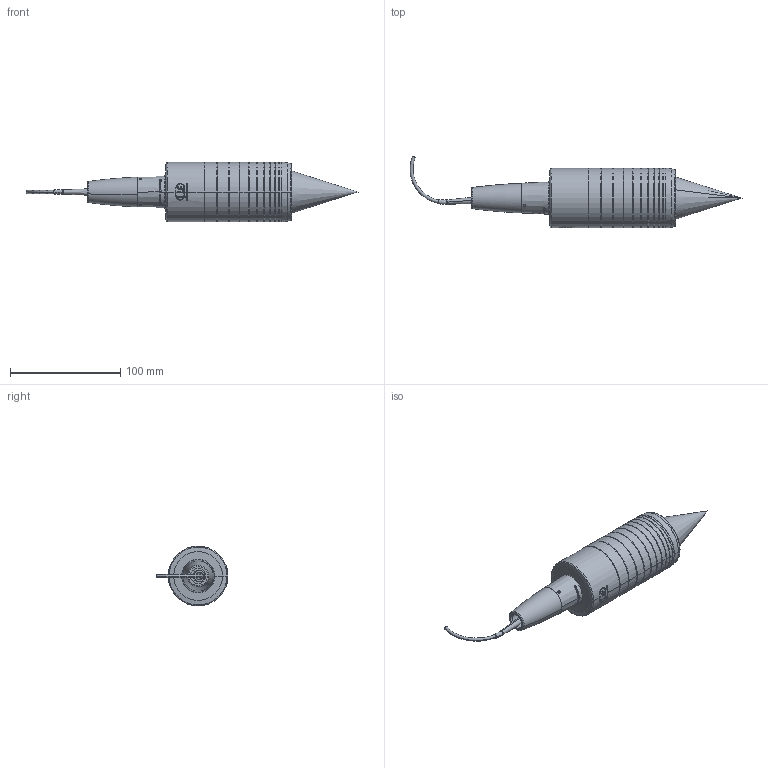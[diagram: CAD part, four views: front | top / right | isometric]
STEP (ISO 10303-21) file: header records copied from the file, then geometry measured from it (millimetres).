
FILE_DESCRIPTION (( 'STEP AP214' ), '1' );
FILE_NAME ('2602022 IFS2405-10 Sensor, vereinfacht.STEP', '2013-01-24T16:07:25', ( 'MICRO-EPSILON Optronic GmbH' ), ( 'MICRO-EPSILON Optronic GmbH' ), 'SwSTEP 2.0', 'SolidWorks 2012', '' );
FILE_SCHEMA (( 'AUTOMOTIVE_DESIGN' ));
Length unit declared in the file: millimetre
Products named in the file (1): 2602022 IFS2405-10 Sensor, vereinfacht
Bounding box: 300.8 x 65.01 x 54 mm (x, y, z)
Volume: 294025.4 mm3; surface area: 40895.2 mm2
Topology: 2 solids, 5 shells, 214 faces, 817 edges, 661 vertices
Faces by surface type: cylinder 79, torus 66, cone 53, plane 14, bspline 2
Entity records: 16326 total; most frequent: CARTESIAN_POINT 7499, ORIENTED_EDGE 1618, DIRECTION 1079, EDGE_CURVE 809, VERTEX_POINT 661, AXIS2_PLACEMENT_3D 477, B_SPLINE_CURVE_WITH_KNOTS 416, EDGE_LOOP 274
